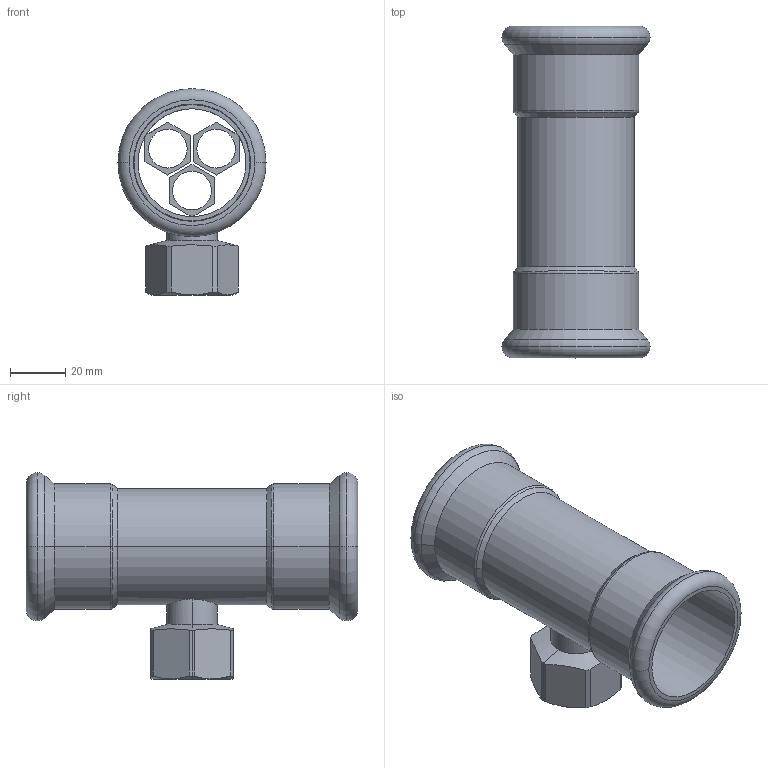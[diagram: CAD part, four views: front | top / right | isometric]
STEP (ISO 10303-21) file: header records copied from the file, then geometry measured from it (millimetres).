
FILE_DESCRIPTION(('OneSpaceDesigner STEP Export'),'2;1');
FILE_NAME('R2718 42xRp3-4x42.stp','2010-06-10T10:07:30',(''),(''),'OneSpace Designer STEP processor for AP214 (Solid Model)','OneSpace Modeling 15.00A 14-Mar-2007 (C) CoCreate Software GmbH','');
FILE_SCHEMA(('AUTOMOTIVE_DESIGN { 1 0 10303 214 1 1 1 1 }'));
Length unit declared in the file: millimetre
Products named in the file (2): R2718_42xRp3-4x42
Assembly tree (1 placements, depth 2):
  R2718_42xRp3-4x42
    R2718_42xRp3-4x42
Bounding box: 53.55 x 120 x 74.78 mm (x, y, z)
Volume: 41280.5 mm3; surface area: 42622.7 mm2
Topology: 1 solids, 1 shells, 190 faces, 481 edges, 308 vertices
Faces by surface type: plane 94, cylinder 64, cone 20, torus 12
Entity records: 6741 total; most frequent: CARTESIAN_POINT 2554, ORIENTED_EDGE 962, DIRECTION 717, EDGE_CURVE 481, VERTEX_POINT 308, VECTOR 287, LINE 287, EDGE_LOOP 225
